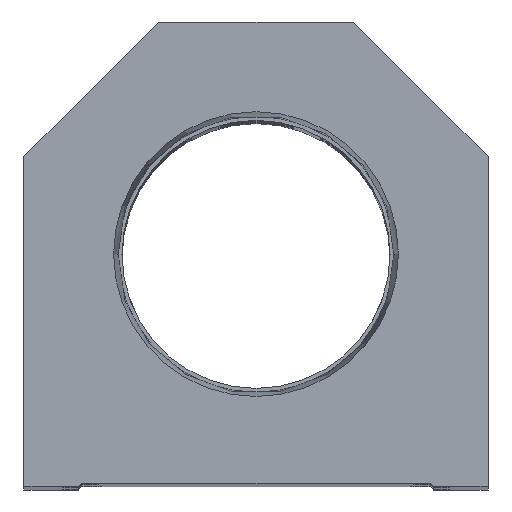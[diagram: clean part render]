
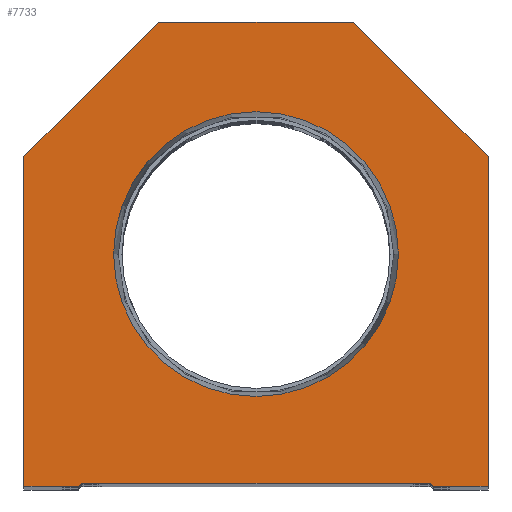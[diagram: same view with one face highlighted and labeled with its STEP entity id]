
A CAD part, top view. The second image highlights one B-rep face of the part: STEP entity #7733.
In plain terms, the highlighted planar face has unit normal (0, 0, 1).
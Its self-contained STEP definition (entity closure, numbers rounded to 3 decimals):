
#30 = CARTESIAN_POINT ( 'NONE',  ( 38.1, 54.1, 0. ) ) ;
#85 = VERTEX_POINT ( 'NONE', #18510 ) ;
#235 = ORIENTED_EDGE ( 'NONE', *, *, #25114, .T. ) ;
#692 = CARTESIAN_POINT ( 'NONE',  ( -28.6, 0., 0. ) ) ;
#1111 = VECTOR ( 'NONE', #19738, 1000. ) ;
#1134 = CARTESIAN_POINT ( 'NONE',  ( 28.6, 0.5, 0. ) ) ;
#1137 = VECTOR ( 'NONE', #18251, 1000. ) ;
#1270 = EDGE_CURVE ( 'NONE', #6926, #4496, #4639, .T. ) ;
#1283 = AXIS2_PLACEMENT_3D ( 'NONE', #1845, #15334, #23413 ) ;
#1715 = FACE_OUTER_BOUND ( 'NONE', #6888, .T. ) ;
#1845 = CARTESIAN_POINT ( 'NONE',  ( 0., 0., 0. ) ) ;
#2208 = DIRECTION ( 'NONE',  ( 1., 0., 0. ) ) ;
#2244 = CARTESIAN_POINT ( 'NONE',  ( -14.55, 14.55, 0. ) ) ;
#2359 = CARTESIAN_POINT ( 'NONE',  ( -28.6, 0.5, 0. ) ) ;
#2400 = LINE ( 'NONE', #15739, #24406 ) ;
#2412 = EDGE_CURVE ( 'NONE', #18194, #7844, #10243, .T. ) ;
#2442 = EDGE_CURVE ( 'NONE', #85, #18194, #19674, .T. ) ;
#2879 = ORIENTED_EDGE ( 'NONE', *, *, #7396, .F. ) ;
#2883 = VERTEX_POINT ( 'NONE', #1134 ) ;
#2910 = CARTESIAN_POINT ( 'NONE',  ( 23.374, 38.1, 0. ) ) ;
#3495 = DIRECTION ( 'NONE',  ( 1., 0., 0. ) ) ;
#3498 = ORIENTED_EDGE ( 'NONE', *, *, #2412, .T. ) ;
#3530 = VECTOR ( 'NONE', #15931, 1000. ) ;
#3764 = DIRECTION ( 'NONE',  ( 0., 0., 1. ) ) ;
#4443 = EDGE_CURVE ( 'NONE', #25296, #16359, #21051, .T. ) ;
#4496 = VERTEX_POINT ( 'NONE', #22085 ) ;
#4631 = VECTOR ( 'NONE', #19657, 1000. ) ;
#4639 = LINE ( 'NONE', #24366, #18667 ) ;
#5869 = ORIENTED_EDGE ( 'NONE', *, *, #2442, .T. ) ;
#6460 = DIRECTION ( 'NONE',  ( -1., 0., 0. ) ) ;
#6888 = EDGE_LOOP ( 'NONE', ( #5869, #3498, #19726, #13485, #19176, #8861, #235, #8735, #14028, #19567 ) ) ;
#6926 = VERTEX_POINT ( 'NONE', #14081 ) ;
#7396 = EDGE_CURVE ( 'NONE', #19370, #23340, #15614, .T. ) ;
#7653 = LINE ( 'NONE', #30, #4631 ) ;
#7733 = ADVANCED_FACE ( 'NONE', ( #17601, #1715 ), #21215, .T. ) ;
#7844 = VERTEX_POINT ( 'NONE', #2359 ) ;
#8107 = ORIENTED_EDGE ( 'NONE', *, *, #12580, .F. ) ;
#8735 = ORIENTED_EDGE ( 'NONE', *, *, #1270, .T. ) ;
#8778 = CARTESIAN_POINT ( 'NONE',  ( 29.1, 0., 0. ) ) ;
#8861 = ORIENTED_EDGE ( 'NONE', *, *, #17115, .T. ) ;
#9227 = DIRECTION ( 'NONE',  ( 0., 0., 1. ) ) ;
#10118 = DIRECTION ( 'NONE',  ( 0.707, 0.707, 0. ) ) ;
#10243 = LINE ( 'NONE', #2244, #24508 ) ;
#10269 = DIRECTION ( 'NONE',  ( 0.707, -0.707, 0. ) ) ;
#10440 = CARTESIAN_POINT ( 'NONE',  ( -23.374, 38.1, 0. ) ) ;
#12245 = LINE ( 'NONE', #23888, #19112 ) ;
#12348 = EDGE_LOOP ( 'NONE', ( #8107, #2879 ) ) ;
#12580 = EDGE_CURVE ( 'NONE', #23340, #19370, #16634, .T. ) ;
#13001 = VECTOR ( 'NONE', #22724, 1000. ) ;
#13383 = EDGE_CURVE ( 'NONE', #7844, #2883, #12245, .T. ) ;
#13415 = CARTESIAN_POINT ( 'NONE',  ( 28.6, 0., 0. ) ) ;
#13485 = ORIENTED_EDGE ( 'NONE', *, *, #16333, .T. ) ;
#13594 = EDGE_CURVE ( 'NONE', #4496, #24142, #13768, .T. ) ;
#13651 = CARTESIAN_POINT ( 'NONE',  ( -38.1, 54.1, 0. ) ) ;
#13768 = LINE ( 'NONE', #13651, #1111 ) ;
#14028 = ORIENTED_EDGE ( 'NONE', *, *, #13594, .T. ) ;
#14081 = CARTESIAN_POINT ( 'NONE',  ( 16., 76.2, 0. ) ) ;
#15251 = CARTESIAN_POINT ( 'NONE',  ( -38.1, 54.1, 0. ) ) ;
#15288 = LINE ( 'NONE', #24760, #13001 ) ;
#15334 = DIRECTION ( 'NONE',  ( 0., 0., 1. ) ) ;
#15614 = CIRCLE ( 'NONE', #20098, 23.374 ) ;
#15657 = CARTESIAN_POINT ( 'NONE',  ( -29.1, 0., 0. ) ) ;
#15739 = CARTESIAN_POINT ( 'NONE',  ( 14.55, 14.55, 0. ) ) ;
#15931 = DIRECTION ( 'NONE',  ( 0., -1., 0. ) ) ;
#16060 = CARTESIAN_POINT ( 'NONE',  ( -38.1, 0., 0. ) ) ;
#16333 = EDGE_CURVE ( 'NONE', #2883, #25296, #2400, .T. ) ;
#16359 = VERTEX_POINT ( 'NONE', #20195 ) ;
#16486 = CARTESIAN_POINT ( 'NONE',  ( 0., 38.1, 0. ) ) ;
#16634 = CIRCLE ( 'NONE', #19488, 23.374 ) ;
#16889 = EDGE_CURVE ( 'NONE', #24142, #85, #19889, .T. ) ;
#17115 = EDGE_CURVE ( 'NONE', #16359, #19245, #15288, .T. ) ;
#17601 = FACE_BOUND ( 'NONE', #12348, .T. ) ;
#17955 = VECTOR ( 'NONE', #3495, 1000. ) ;
#18194 = VERTEX_POINT ( 'NONE', #15657 ) ;
#18251 = DIRECTION ( 'NONE',  ( 1., 0., 0. ) ) ;
#18510 = CARTESIAN_POINT ( 'NONE',  ( -38.1, 0., 0. ) ) ;
#18667 = VECTOR ( 'NONE', #6460, 1000. ) ;
#19105 = CARTESIAN_POINT ( 'NONE',  ( 38.1, 54.1, 0. ) ) ;
#19112 = VECTOR ( 'NONE', #20144, 1000. ) ;
#19176 = ORIENTED_EDGE ( 'NONE', *, *, #4443, .T. ) ;
#19245 = VERTEX_POINT ( 'NONE', #19105 ) ;
#19370 = VERTEX_POINT ( 'NONE', #10440 ) ;
#19488 = AXIS2_PLACEMENT_3D ( 'NONE', #19763, #3764, #2208 ) ;
#19567 = ORIENTED_EDGE ( 'NONE', *, *, #16889, .T. ) ;
#19657 = DIRECTION ( 'NONE',  ( -0.707, 0.707, 0. ) ) ;
#19674 = LINE ( 'NONE', #692, #1137 ) ;
#19726 = ORIENTED_EDGE ( 'NONE', *, *, #13383, .T. ) ;
#19738 = DIRECTION ( 'NONE',  ( -0.707, -0.707, 0. ) ) ;
#19763 = CARTESIAN_POINT ( 'NONE',  ( 0., 38.1, 0. ) ) ;
#19889 = LINE ( 'NONE', #16060, #3530 ) ;
#20098 = AXIS2_PLACEMENT_3D ( 'NONE', #16486, #9227, #24326 ) ;
#20144 = DIRECTION ( 'NONE',  ( 1., 0., 0. ) ) ;
#20195 = CARTESIAN_POINT ( 'NONE',  ( 38.1, 0., 0. ) ) ;
#21051 = LINE ( 'NONE', #13415, #17955 ) ;
#21215 = PLANE ( 'NONE',  #1283 ) ;
#22085 = CARTESIAN_POINT ( 'NONE',  ( -16., 76.2, 0. ) ) ;
#22724 = DIRECTION ( 'NONE',  ( 0., 1., 0. ) ) ;
#23340 = VERTEX_POINT ( 'NONE', #2910 ) ;
#23413 = DIRECTION ( 'NONE',  ( 1., 0., 0. ) ) ;
#23888 = CARTESIAN_POINT ( 'NONE',  ( -28.6, 0.5, 0. ) ) ;
#24142 = VERTEX_POINT ( 'NONE', #15251 ) ;
#24326 = DIRECTION ( 'NONE',  ( 1., 0., 0. ) ) ;
#24366 = CARTESIAN_POINT ( 'NONE',  ( 16., 76.2, 0. ) ) ;
#24406 = VECTOR ( 'NONE', #10269, 1000. ) ;
#24508 = VECTOR ( 'NONE', #10118, 1000. ) ;
#24760 = CARTESIAN_POINT ( 'NONE',  ( 38.1, 0., 0. ) ) ;
#25114 = EDGE_CURVE ( 'NONE', #19245, #6926, #7653, .T. ) ;
#25296 = VERTEX_POINT ( 'NONE', #8778 ) ;
